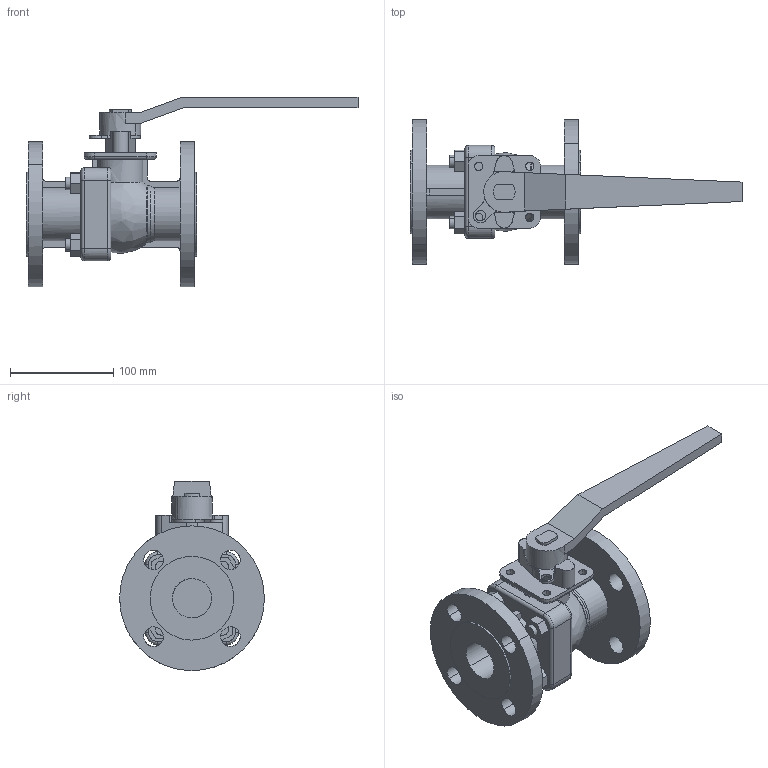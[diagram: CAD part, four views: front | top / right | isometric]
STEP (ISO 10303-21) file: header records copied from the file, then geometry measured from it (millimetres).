
FILE_DESCRIPTION((''),'2;1');
FILE_NAME('','2022-03-23T15:32:30',(''),(''),'','CADfix','');
FILE_SCHEMA(('AUTOMOTIVE_DESIGN { 1 0 10303 214 1 1 1 1 }'));
Length unit declared in the file: millimetre
Products named in the file (2): BLV-2SFJ 40A; BLV-2SF JIS 10K 40A_38
Assembly tree (1 placements, depth 2):
  BLV-2SF JIS 10K 40A_38
    BLV-2SFJ 40A
Bounding box: 321.2 x 140 x 183 mm (x, y, z)
Volume: 977717.9 mm3; surface area: 166297.4 mm2
Topology: 1 solids, 1 shells, 217 faces, 772 edges, 572 vertices
Faces by surface type: bspline 217
Entity records: 11307 total; most frequent: CARTESIAN_POINT 6178, ORIENTED_EDGE 1544, EDGE_CURVE 772, STYLED_ITEM 626, VERTEX_POINT 572, B_SPLINE_CURVE_WITH_KNOTS 394, QUASI_UNIFORM_CURVE 320, EDGE_LOOP 262
